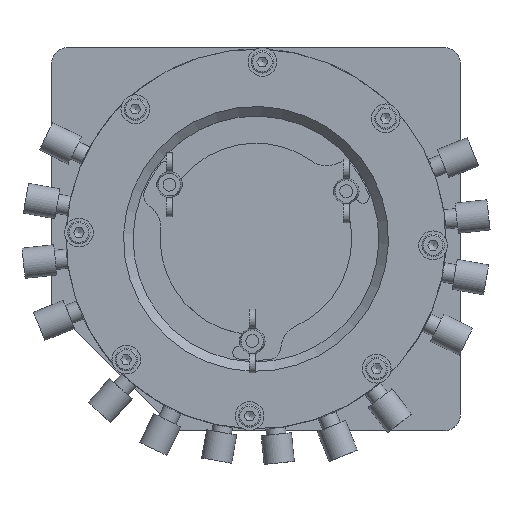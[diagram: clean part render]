
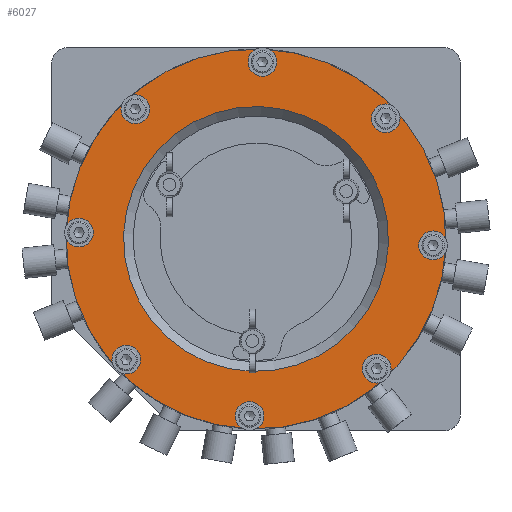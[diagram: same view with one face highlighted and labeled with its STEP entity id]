
A CAD part, top view. The second image highlights one B-rep face of the part: STEP entity #6027.
In plain terms, the highlighted planar face has unit normal (0, 0, 1) as drawn and (-1, 0, 0) by its records, which use the part's own axes.
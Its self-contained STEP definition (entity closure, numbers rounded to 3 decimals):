
#1041=PLANE($,#6591);
#1409=FACE_BOUND($,#2560,.T.);
#1410=FACE_BOUND($,#2561,.T.);
#1411=FACE_BOUND($,#2562,.T.);
#1412=FACE_BOUND($,#2563,.T.);
#1413=FACE_BOUND($,#2564,.T.);
#1414=FACE_BOUND($,#2565,.T.);
#1415=FACE_BOUND($,#2566,.T.);
#1416=FACE_BOUND($,#2567,.T.);
#1417=FACE_BOUND($,#2568,.T.);
#1694=CIRCLE($,#6588,41.5);
#1696=CIRCLE($,#6592,59.5);
#1697=CIRCLE($,#6593,2.1);
#1698=CIRCLE($,#6594,2.1);
#1699=CIRCLE($,#6595,2.1);
#1700=CIRCLE($,#6596,2.1);
#1701=CIRCLE($,#6597,2.1);
#1702=CIRCLE($,#6598,2.1);
#1703=CIRCLE($,#6599,2.1);
#1704=CIRCLE($,#6600,2.1);
#2002=FACE_OUTER_BOUND($,#2559,.T.);
#2559=EDGE_LOOP($,(#4776));
#2560=EDGE_LOOP($,(#4777));
#2561=EDGE_LOOP($,(#4778));
#2562=EDGE_LOOP($,(#4779));
#2563=EDGE_LOOP($,(#4780));
#2564=EDGE_LOOP($,(#4781));
#2565=EDGE_LOOP($,(#4782));
#2566=EDGE_LOOP($,(#4783));
#2567=EDGE_LOOP($,(#4784));
#2568=EDGE_LOOP($,(#4785));
#3203=VERTEX_POINT($,#11315);
#3205=VERTEX_POINT($,#11321);
#3206=VERTEX_POINT($,#11323);
#3207=VERTEX_POINT($,#11325);
#3208=VERTEX_POINT($,#11327);
#3209=VERTEX_POINT($,#11329);
#3210=VERTEX_POINT($,#11331);
#3211=VERTEX_POINT($,#11333);
#3212=VERTEX_POINT($,#11335);
#3213=VERTEX_POINT($,#11337);
#3802=EDGE_CURVE($,#3203,#3203,#1694,.T.);
#3804=EDGE_CURVE($,#3205,#3205,#1696,.T.);
#3805=EDGE_CURVE($,#3206,#3206,#1697,.T.);
#3806=EDGE_CURVE($,#3207,#3207,#1698,.T.);
#3807=EDGE_CURVE($,#3208,#3208,#1699,.T.);
#3808=EDGE_CURVE($,#3209,#3209,#1700,.T.);
#3809=EDGE_CURVE($,#3210,#3210,#1701,.T.);
#3810=EDGE_CURVE($,#3211,#3211,#1702,.T.);
#3811=EDGE_CURVE($,#3212,#3212,#1703,.T.);
#3812=EDGE_CURVE($,#3213,#3213,#1704,.T.);
#4776=ORIENTED_EDGE($,*,*,#3804,.F.);
#4777=ORIENTED_EDGE($,*,*,#3805,.T.);
#4778=ORIENTED_EDGE($,*,*,#3806,.T.);
#4779=ORIENTED_EDGE($,*,*,#3807,.T.);
#4780=ORIENTED_EDGE($,*,*,#3808,.T.);
#4781=ORIENTED_EDGE($,*,*,#3809,.T.);
#4782=ORIENTED_EDGE($,*,*,#3810,.T.);
#4783=ORIENTED_EDGE($,*,*,#3811,.T.);
#4784=ORIENTED_EDGE($,*,*,#3812,.T.);
#4785=ORIENTED_EDGE($,*,*,#3802,.F.);
#6027=ADVANCED_FACE($,(#2002,#1409,#1410,#1411,#1412,#1413,#1414,#1415,
#1416,#1417),#1041,.T.);
#6588=AXIS2_PLACEMENT_3D($,#11316,#7728,#7729);
#6591=AXIS2_PLACEMENT_3D($,#11320,#7734,#7735);
#6592=AXIS2_PLACEMENT_3D($,#11322,#7736,#7737);
#6593=AXIS2_PLACEMENT_3D($,#11324,#7738,#7739);
#6594=AXIS2_PLACEMENT_3D($,#11326,#7740,#7741);
#6595=AXIS2_PLACEMENT_3D($,#11328,#7742,#7743);
#6596=AXIS2_PLACEMENT_3D($,#11330,#7744,#7745);
#6597=AXIS2_PLACEMENT_3D($,#11332,#7746,#7747);
#6598=AXIS2_PLACEMENT_3D($,#11334,#7748,#7749);
#6599=AXIS2_PLACEMENT_3D($,#11336,#7750,#7751);
#6600=AXIS2_PLACEMENT_3D($,#11338,#7752,#7753);
#7728=DIRECTION('center_axis',(-1.,0.,0.));
#7729=DIRECTION('ref_axis',(0.,-1.,0.));
#7734=DIRECTION('center_axis',(-1.,0.,0.));
#7735=DIRECTION('ref_axis',(0.,0.,1.));
#7736=DIRECTION('center_axis',(1.,0.,0.));
#7737=DIRECTION('ref_axis',(0.,1.,0.));
#7738=DIRECTION('center_axis',(1.,0.,0.));
#7739=DIRECTION('ref_axis',(0.,0.,1.));
#7740=DIRECTION('center_axis',(1.,0.,0.));
#7741=DIRECTION('ref_axis',(0.,-0.707,0.707));
#7742=DIRECTION('center_axis',(1.,0.,0.));
#7743=DIRECTION('ref_axis',(0.,-1.,0.));
#7744=DIRECTION('center_axis',(1.,0.,0.));
#7745=DIRECTION('ref_axis',(0.,-0.707,-0.707));
#7746=DIRECTION('center_axis',(1.,0.,0.));
#7747=DIRECTION('ref_axis',(0.,0.,-1.));
#7748=DIRECTION('center_axis',(1.,0.,0.));
#7749=DIRECTION('ref_axis',(0.,0.707,-0.707));
#7750=DIRECTION('center_axis',(1.,0.,0.));
#7751=DIRECTION('ref_axis',(0.,1.,0.));
#7752=DIRECTION('center_axis',(1.,0.,0.));
#7753=DIRECTION('ref_axis',(0.,0.707,0.707));
#11315=CARTESIAN_POINT('',(0.,41.5,0.));
#11316=CARTESIAN_POINT('Origin',(0.,0.,
0.));
#11320=CARTESIAN_POINT('Origin',(0.,49.,0.));
#11321=CARTESIAN_POINT('',(0.,59.5,0.));
#11322=CARTESIAN_POINT('Origin',(0.,0.,
0.));
#11323=CARTESIAN_POINT('',(0.,55.5,2.1));
#11324=CARTESIAN_POINT('Origin',(0.,55.5,0.));
#11325=CARTESIAN_POINT('',(0.,37.76,40.729));
#11326=CARTESIAN_POINT('Origin',(0.,39.244,39.244));
#11327=CARTESIAN_POINT('',(0.,-2.1,55.5));
#11328=CARTESIAN_POINT('Origin',(0.,0.,55.5));
#11329=CARTESIAN_POINT('',(0.,-40.729,37.76));
#11330=CARTESIAN_POINT('Origin',(0.,-39.244,39.244));
#11331=CARTESIAN_POINT('',(0.,-55.5,-2.1));
#11332=CARTESIAN_POINT('Origin',(0.,-55.5,0.));
#11333=CARTESIAN_POINT('',(0.,-37.76,-40.729));
#11334=CARTESIAN_POINT('Origin',(0.,-39.244,-39.244));
#11335=CARTESIAN_POINT('',(0.,2.1,-55.5));
#11336=CARTESIAN_POINT('Origin',(0.,0.,-55.5));
#11337=CARTESIAN_POINT('',(0.,40.729,-37.76));
#11338=CARTESIAN_POINT('Origin',(0.,39.244,-39.244));
